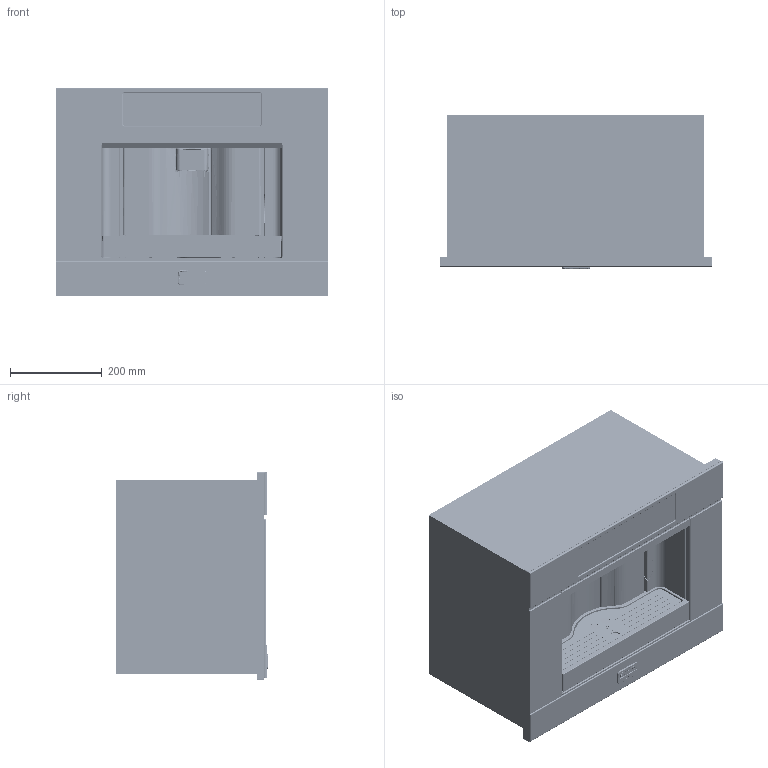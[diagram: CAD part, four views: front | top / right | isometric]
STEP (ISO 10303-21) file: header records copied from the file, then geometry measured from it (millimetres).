
FILE_DESCRIPTION (( 'STEP AP203' ), '1' );
FILE_NAME ('460517_CM8456S.STEP', '2014-07-20T15:32:54', ( '' ), ( '' ), 'SwSTEP 2.0', 'SolidWorks 2012', '' );
FILE_SCHEMA (( 'CONFIG_CONTROL_DESIGN' ));
Products named in the file (20): STEKLO; PARTBODY-3; BODY.2-13; BODY.2-12; BODY.2-11; PARTBODY-2; PARTBODY-1; BODY.1; BODY.7; PORTINA GRUPPO; BREP WITH VOIDS; 460517_CM8456S; 001_KAVNI AVTOMAT; CORPO; Badge; Asko pro patch door lower BIO45 v.01 16-10008901ugm000~00; Asko pro 3D control panel patch16-10007991ugm000~00; OHISJE; PARTBODY-5; PARTBODY-4
Assembly tree (19 placements, depth 4):
  460517_CM8456S
    001_KAVNI AVTOMAT
      BREP WITH VOIDS
      PORTINA GRUPPO
      BODY.7
      BODY.1
      PARTBODY-1
      STEKLO
        PARTBODY-2
        BODY.2-11
        BODY.2-12
        BODY.2-13
        PARTBODY-3
      PARTBODY-4
      PARTBODY-5
      OHISJE
      Asko pro 3D control panel patch16-10007991ugm000~00
      Asko pro patch door lower BIO45 v.01 16-10008901ugm000~00
      Badge
      CORPO
Bounding box: 595 x 333.8 x 455.29 mm (x, y, z)
Volume: 28509008.8 mm3; surface area: 5413939.2 mm2
Topology: 25 solids, 26 shells, 7211 faces, 19293 edges, 12088 vertices
Faces by surface type: plane 2940, cylinder 2258, bspline 1160, cone 361, torus 306, sphere 186
Entity records: 309852 total; most frequent: CARTESIAN_POINT 142916, ORIENTED_EDGE 38250, DIRECTION 28496, EDGE_CURVE 19125, VERTEX_POINT 12013, VECTOR 9852, LINE 9852, AXIS2_PLACEMENT_3D 9322
